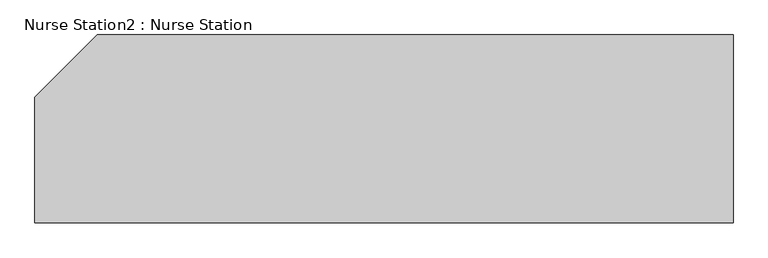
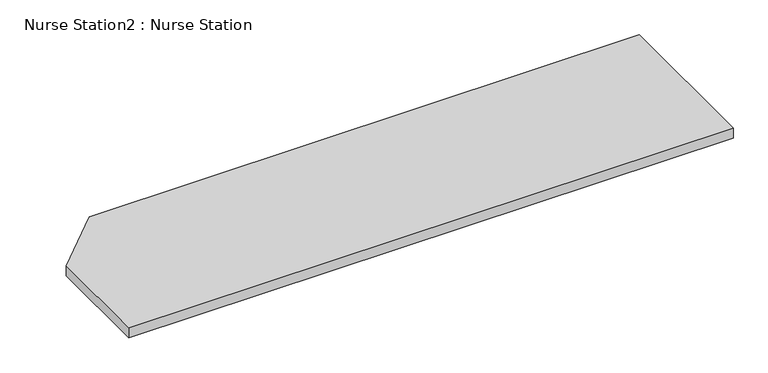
"""IFC4 building model written with IfcOpenShell, lengths in millimetres: furniture geometry, Nurse Station2 : Nurse Station."""

from ifc_helpers import new_model, si_unit, frame, origin, place, context, project, spatial, polyline, outline, extrude, source, transform, mapped, element, save


def nurse_station2_nurse_station_97ff44f3(model_context):
    return source(origin(), model_context, "Body", "SweptSolid", [
        extrude(outline(polyline([(55179.0445525, -10221.8684808), (52947.2945525, -10221.8684808), (52947.2945525, -9821.8684808), (53147.2945525, -9621.8684808), (55179.0445525, -9621.8684808), (55179.0445525, -10221.8684808)])), frame((0.0, 0.0, 710.0), z_axis=(0.0, 0.0, 1.0), x_axis=(1.0, 0.0, 0.0)), (0.0, 0.0, 1.0), 40.0),
    ])


if __name__ == "__main__":
    model = new_model("IFC4")
    model_context = context("Model", 3, world=origin())
    ifc_project = project(units=[si_unit("LENGTHUNIT", "METRE", prefix="MILLI")], contexts=[model_context])
    site = spatial("IfcSite", under=ifc_project)
    building = spatial("IfcBuilding", under=site)
    placement = place(None, origin())
    nurse_station2_nurse_station_shape = nurse_station2_nurse_station_97ff44f3(model_context)
    element("IfcFurniture", 1, ObjectType="Nurse Station2 : Nurse Station", at=placement, inside=building, context=model_context, shape_type="MappedRepresentation", body=[
        mapped(nurse_station2_nurse_station_shape, transform((0.0, 0.0, 0.0), x_axis=(1.0, 0.0, 0.0), y_axis=(0.0, 1.0, 0.0), z_axis=(0.0, 0.0, 1.0))),
    ])
    save(model, "model.ifc")
